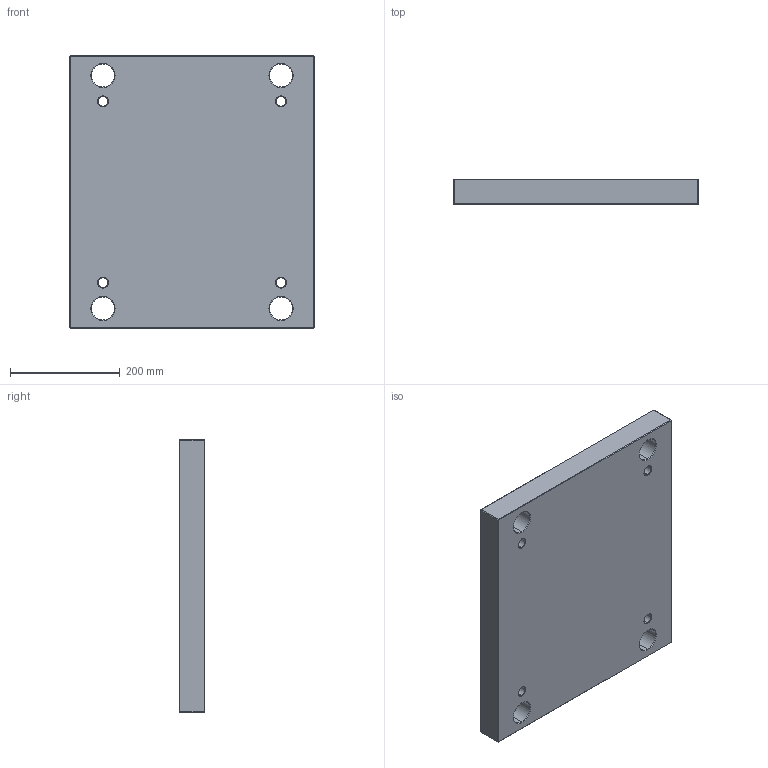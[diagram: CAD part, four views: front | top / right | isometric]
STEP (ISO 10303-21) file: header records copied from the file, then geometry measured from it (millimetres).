
FILE_DESCRIPTION (( 'STEP AP214' ), '1' );
FILE_NAME ('PBA-EU-396x496x46.STEP', '2020-03-10T16:02:18', ( 'August' ), ( '' ), 'SwSTEP 2.0', 'SolidWorks 2018', '' );
FILE_SCHEMA (( 'AUTOMOTIVE_DESIGN' ));
Length unit declared in the file: millimetre
Products named in the file (1): PBA-EU-396x496x46
Bounding box: 446 x 46 x 496 mm (x, y, z)
Volume: 9851495.5 mm3; surface area: 549230 mm2
Topology: 1 solids, 1 shells, 86 faces, 184 edges, 104 vertices
Faces by surface type: cone 32, plane 30, cylinder 24
Entity records: 2346 total; most frequent: DIRECTION 438, CARTESIAN_POINT 375, ORIENTED_EDGE 368, EDGE_CURVE 184, AXIS2_PLACEMENT_3D 167, EDGE_LOOP 106, VECTOR 104, VERTEX_POINT 104
